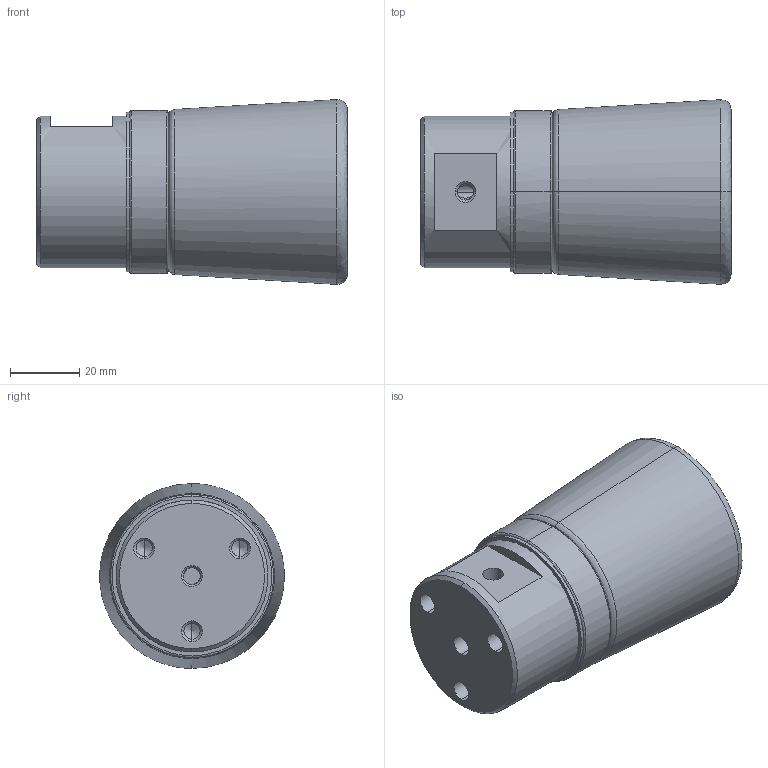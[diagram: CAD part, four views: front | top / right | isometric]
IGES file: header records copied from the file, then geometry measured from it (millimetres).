
Start section: ------------------------------------------------------------------------
Global section: file name: D:\ICADMX\tmp\trans3d_spg\TGMX25.1844.RBP045TCA_23387.igs; native system: spGate; preprocessor: ver11.3.7; author: Unknown; organization: Unknown; date: 150330.151325; units: millimetre
Bounding box: 90 x 53.45 x 53.49 mm (x, y, z)
Volume: 156336.9 mm3; surface area: 19952.3 mm2
Topology: 1 solids, 1 shells, 69 faces, 152 edges, 87 vertices
Faces by surface type: bspline 69
